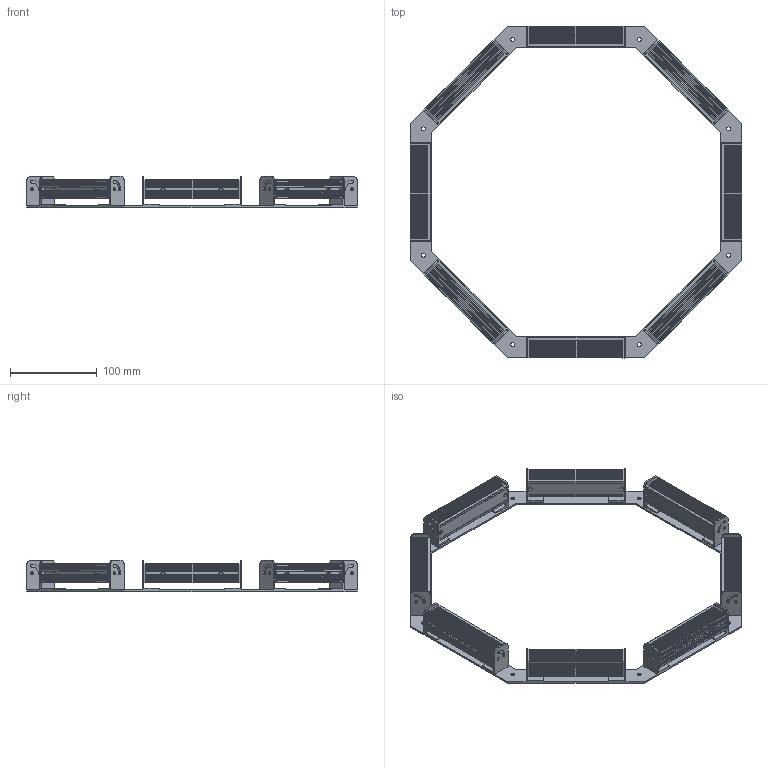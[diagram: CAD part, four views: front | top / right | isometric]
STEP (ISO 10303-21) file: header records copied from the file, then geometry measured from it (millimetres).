
FILE_DESCRIPTION((''),'2;1');
FILE_NAME('MSL-102-102_ASM','2020-03-26T',('ASUS'),(''),'PRO/ENGINEER BY PARAMETRIC TECHNOLOGY CORPORATION, 2008380','PRO/ENGINEER BY PARAMETRIC TECHNOLOGY CORPORATION, 2008380','');
FILE_SCHEMA(('CONFIG_CONTROL_DESIGN'));
Length unit declared in the file: millimetre
Products named in the file (3): PRT0002; PRT0010; MSL-102-102_ASM
Assembly tree (9 placements, depth 2):
  MSL-102-102_ASM
    PRT0002
    PRT0010  x8
Bounding box: 382.05 x 382.05 x 36 mm (x, y, z)
Volume: 500357.3 mm3; surface area: 252909.4 mm2
Topology: 9 solids, 41 shells, 2474 faces, 6632 edges, 4384 vertices
Faces by surface type: plane 1482, cylinder 832, cone 160
Entity records: 17704 total; most frequent: CARTESIAN_POINT 3202, DIRECTION 3043, ORIENTED_EDGE 2970, EDGE_CURVE 1493, AXIS2_PLACEMENT_3D 1025, VERTEX_POINT 996, VECTOR 993, LINE 993
